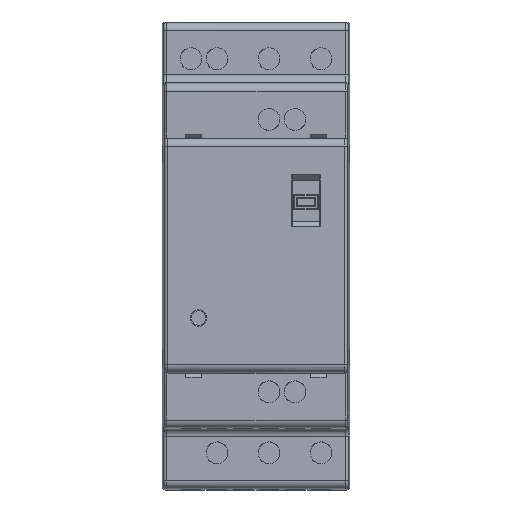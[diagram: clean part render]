
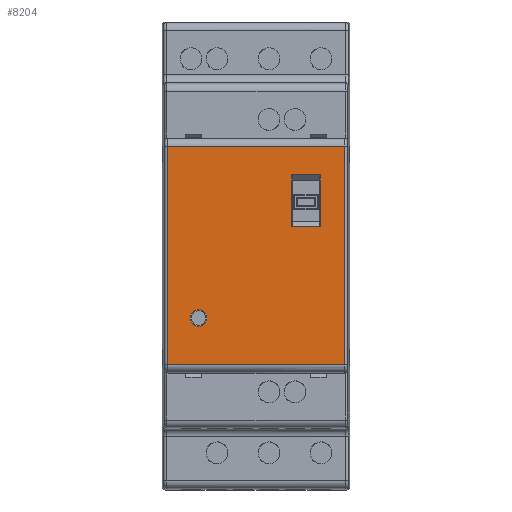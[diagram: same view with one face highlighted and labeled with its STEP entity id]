
A CAD part, top view. The second image highlights one B-rep face of the part: STEP entity #8204.
In plain terms, the highlighted planar face has unit normal (0, 0, 1).
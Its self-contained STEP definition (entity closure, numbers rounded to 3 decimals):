
#822 = CARTESIAN_POINT ( 'NONE',  ( 0.903, 23.979, 58.5 ) ) ;
#1176 = CARTESIAN_POINT ( 'NONE',  ( 24.816, 50.5, 58.5 ) ) ;
#1279 = LINE ( 'NONE', #15928, #4535 ) ;
#1340 = EDGE_CURVE ( 'NONE', #23462, #6807, #20669, .T. ) ;
#1950 = LINE ( 'NONE', #12499, #20807 ) ;
#3087 = VERTEX_POINT ( 'NONE', #1176 ) ;
#3120 = FACE_OUTER_BOUND ( 'NONE', #27403, .T. ) ;
#3212 = DIRECTION ( 'NONE',  ( 0., 0., 1. ) ) ;
#3508 = ORIENTED_EDGE ( 'NONE', *, *, #22162, .T. ) ;
#4156 = ORIENTED_EDGE ( 'NONE', *, *, #1340, .F. ) ;
#4369 = ORIENTED_EDGE ( 'NONE', *, *, #18318, .T. ) ;
#4535 = VECTOR ( 'NONE', #12103, 1000. ) ;
#5157 = EDGE_LOOP ( 'NONE', ( #24392, #4156 ) ) ;
#5270 = EDGE_CURVE ( 'NONE', #27423, #26025, #8790, .T. ) ;
#5621 = VECTOR ( 'NONE', #26089, 1000. ) ;
#5871 = AXIS2_PLACEMENT_3D ( 'NONE', #9680, #3212, #25108 ) ;
#6544 = CARTESIAN_POINT ( 'NONE',  ( 6.966, 33., 58.5 ) ) ;
#6566 = LINE ( 'NONE', #9109, #27115 ) ;
#6679 = DIRECTION ( 'NONE',  ( 0., 0., 1. ) ) ;
#6807 = VERTEX_POINT ( 'NONE', #23966 ) ;
#7890 = EDGE_CURVE ( 'NONE', #25828, #14633, #6566, .T. ) ;
#7990 = EDGE_CURVE ( 'NONE', #14633, #3087, #14156, .T. ) ;
#8040 = ORIENTED_EDGE ( 'NONE', *, *, #22428, .T. ) ;
#8204 = ADVANCED_FACE ( 'NONE', ( #22386, #17607, #3120 ), #15645, .F. ) ;
#8790 = LINE ( 'NONE', #16941, #24865 ) ;
#9109 = CARTESIAN_POINT ( 'NONE',  ( 30.416, 67.6, 58.5 ) ) ;
#9171 = AXIS2_PLACEMENT_3D ( 'NONE', #13400, #15507, #11285 ) ;
#9246 = DIRECTION ( 'NONE',  ( 0., -1., 0. ) ) ;
#9329 = EDGE_CURVE ( 'NONE', #19827, #19732, #13440, .T. ) ;
#9381 = EDGE_CURVE ( 'NONE', #6807, #23462, #26281, .T. ) ;
#9524 = DIRECTION ( 'NONE',  ( -1., 0., 0. ) ) ;
#9680 = CARTESIAN_POINT ( 'NONE',  ( 6.966, 33., 58.5 ) ) ;
#10301 = CARTESIAN_POINT ( 'NONE',  ( 0.903, 67.6, 58.5 ) ) ;
#10502 = VECTOR ( 'NONE', #9524, 1000. ) ;
#10651 = ORIENTED_EDGE ( 'NONE', *, *, #9329, .T. ) ;
#11285 = DIRECTION ( 'NONE',  ( -1., 0., 0. ) ) ;
#11471 = CARTESIAN_POINT ( 'NONE',  ( 5.366, 33., 58.5 ) ) ;
#11506 = CARTESIAN_POINT ( 'NONE',  ( 0.316, 50.5, 58.5 ) ) ;
#12086 = CARTESIAN_POINT ( 'NONE',  ( 0.903, 66.021, 58.5 ) ) ;
#12103 = DIRECTION ( 'NONE',  ( 0., 1., 0. ) ) ;
#12341 = CARTESIAN_POINT ( 'NONE',  ( 0.316, 60.5, 58.5 ) ) ;
#12499 = CARTESIAN_POINT ( 'NONE',  ( 24.816, 67.6, 58.5 ) ) ;
#13220 = ORIENTED_EDGE ( 'NONE', *, *, #13557, .T. ) ;
#13385 = CARTESIAN_POINT ( 'NONE',  ( 30.416, 60.5, 58.5 ) ) ;
#13400 = CARTESIAN_POINT ( 'NONE',  ( 0.316, 67.6, 58.5 ) ) ;
#13440 = LINE ( 'NONE', #17232, #5621 ) ;
#13557 = EDGE_CURVE ( 'NONE', #26025, #19827, #17332, .T. ) ;
#14156 = LINE ( 'NONE', #11506, #10502 ) ;
#14303 = DIRECTION ( 'NONE',  ( 1., 0., 0. ) ) ;
#14633 = VERTEX_POINT ( 'NONE', #23388 ) ;
#15507 = DIRECTION ( 'NONE',  ( 0., 0., -1. ) ) ;
#15645 = PLANE ( 'NONE',  #9171 ) ;
#15683 = DIRECTION ( 'NONE',  ( 1., 0., 0. ) ) ;
#15851 = CARTESIAN_POINT ( 'NONE',  ( 35.029, 66.021, 58.5 ) ) ;
#15928 = CARTESIAN_POINT ( 'NONE',  ( 35.029, 67.508, 58.5 ) ) ;
#15962 = CARTESIAN_POINT ( 'NONE',  ( 24.816, 60.5, 58.5 ) ) ;
#16941 = CARTESIAN_POINT ( 'NONE',  ( 0.316, 66.021, 58.5 ) ) ;
#16981 = CARTESIAN_POINT ( 'NONE',  ( 35.029, 23.979, 58.5 ) ) ;
#17220 = VECTOR ( 'NONE', #14303, 1000. ) ;
#17232 = CARTESIAN_POINT ( 'NONE',  ( 0.316, 23.979, 58.5 ) ) ;
#17332 = LINE ( 'NONE', #10301, #19272 ) ;
#17607 = FACE_BOUND ( 'NONE', #26894, .T. ) ;
#18318 = EDGE_CURVE ( 'NONE', #19732, #27423, #1279, .T. ) ;
#18533 = LINE ( 'NONE', #12341, #17220 ) ;
#19272 = VECTOR ( 'NONE', #21280, 1000. ) ;
#19546 = ORIENTED_EDGE ( 'NONE', *, *, #5270, .T. ) ;
#19732 = VERTEX_POINT ( 'NONE', #16981 ) ;
#19827 = VERTEX_POINT ( 'NONE', #822 ) ;
#20669 = CIRCLE ( 'NONE', #5871, 1.6 ) ;
#20807 = VECTOR ( 'NONE', #21358, 1000. ) ;
#21280 = DIRECTION ( 'NONE',  ( 0., -1., 0. ) ) ;
#21325 = AXIS2_PLACEMENT_3D ( 'NONE', #6544, #6679, #15683 ) ;
#21358 = DIRECTION ( 'NONE',  ( 0., 1., 0. ) ) ;
#22162 = EDGE_CURVE ( 'NONE', #3087, #23474, #1950, .T. ) ;
#22386 = FACE_BOUND ( 'NONE', #5157, .T. ) ;
#22428 = EDGE_CURVE ( 'NONE', #23474, #25828, #18533, .T. ) ;
#23388 = CARTESIAN_POINT ( 'NONE',  ( 30.416, 50.5, 58.5 ) ) ;
#23462 = VERTEX_POINT ( 'NONE', #11471 ) ;
#23474 = VERTEX_POINT ( 'NONE', #15962 ) ;
#23966 = CARTESIAN_POINT ( 'NONE',  ( 8.566, 33., 58.5 ) ) ;
#24392 = ORIENTED_EDGE ( 'NONE', *, *, #9381, .F. ) ;
#24865 = VECTOR ( 'NONE', #25939, 1000. ) ;
#25091 = ORIENTED_EDGE ( 'NONE', *, *, #7990, .T. ) ;
#25108 = DIRECTION ( 'NONE',  ( 1., 0., 0. ) ) ;
#25828 = VERTEX_POINT ( 'NONE', #13385 ) ;
#25939 = DIRECTION ( 'NONE',  ( -1., 0., 0. ) ) ;
#26025 = VERTEX_POINT ( 'NONE', #12086 ) ;
#26089 = DIRECTION ( 'NONE',  ( 1., 0., 0. ) ) ;
#26281 = CIRCLE ( 'NONE', #21325, 1.6 ) ;
#26818 = ORIENTED_EDGE ( 'NONE', *, *, #7890, .T. ) ;
#26894 = EDGE_LOOP ( 'NONE', ( #8040, #26818, #25091, #3508 ) ) ;
#27115 = VECTOR ( 'NONE', #9246, 1000. ) ;
#27403 = EDGE_LOOP ( 'NONE', ( #19546, #13220, #10651, #4369 ) ) ;
#27423 = VERTEX_POINT ( 'NONE', #15851 ) ;
